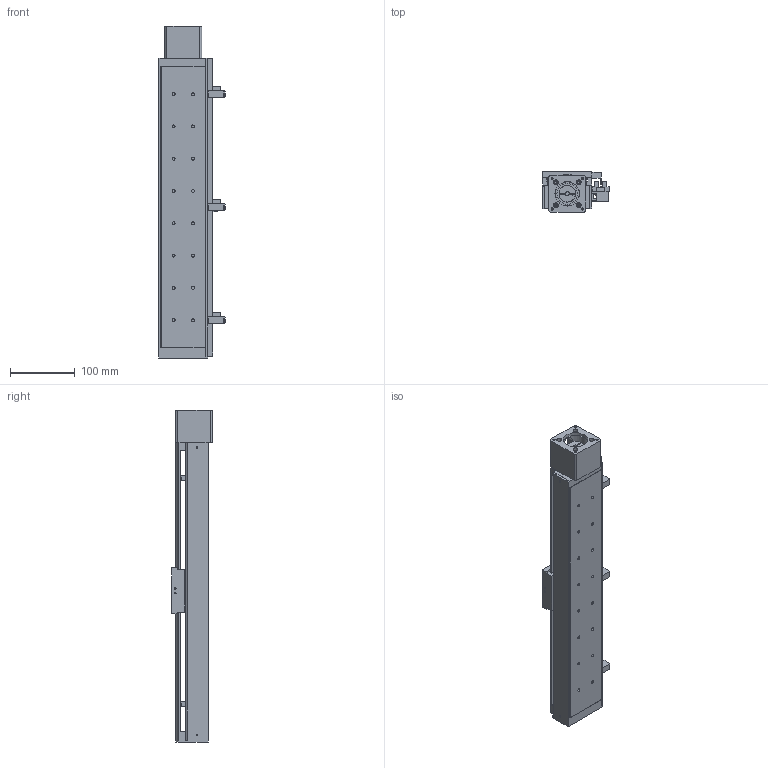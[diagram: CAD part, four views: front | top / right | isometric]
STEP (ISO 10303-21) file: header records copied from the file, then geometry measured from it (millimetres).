
FILE_DESCRIPTION((''),'2;1');
FILE_NAME('E:\uia actuator\UIA actuator 3d- 2009\Standard ball screw actuator\UIA076R9DC\UIA076R9DC-STEP file\with motor mount\UIA076R9DC step file 18Apr16\UIA076R9DC-350-R1205(or R1210)-M23-P13-C10-S.stp','2016-04-20T08:23:24',('h029'),(''),'Autodesk Inventor 11','Autodesk Inventor 11','');
FILE_SCHEMA(('AUTOMOTIVE_DESIGN { 1 0 10303 214 1 1 1 1 }'));
Length unit declared in the file: millimetre
Products named in the file (10): UIA076R9DC-350-R1205(or R1210)-M23-P13-C10-S; UIA076R9DC-350-BODY; UIA076R9DC-350-sensor rail; UIA076R9DC-CARRIAGE; UIA076R9DC-SENSOR FLAG; 01-100 0110 Motor MOUNT-M23; SOH-25C; SOH-25C-2; SOH-25C-3; SOH-25C-1
Assembly tree (9 placements, depth 3):
  UIA076R9DC-350-R1205(or R1210)-M23-P13-C10-S
    UIA076R9DC-350-BODY
    UIA076R9DC-350-sensor rail
    UIA076R9DC-CARRIAGE
    UIA076R9DC-SENSOR FLAG
    01-100 0110 Motor MOUNT-M23
    SOH-25C
      SOH-25C-2
      SOH-25C-3
      SOH-25C-1
Bounding box: 103 x 63 x 514 mm (x, y, z)
Volume: 799934.6 mm3; surface area: 317277.9 mm2
Topology: 8 solids, 8 shells, 428 faces, 1191 edges, 784 vertices
Faces by surface type: plane 291, cylinder 109, cone 21, bspline 7
Full cylindrical faces by diameter (mm): 2.459 x8, 3 x2, 3.242 x16, 3.5 x4, 4 x6, 4.5 x20, 6 x2, 7.5 x20, 22 x1, 25.5 x3, 32 x1, 37 x1, 38.1 x1
Entity records: 13578 total; most frequent: CARTESIAN_POINT 2688, DIRECTION 2162, ORIENTED_EDGE 2064, EDGE_CURVE 1032, VECTOR 760, LINE 760, VERTEX_POINT 737, AXIS2_PLACEMENT_3D 701
